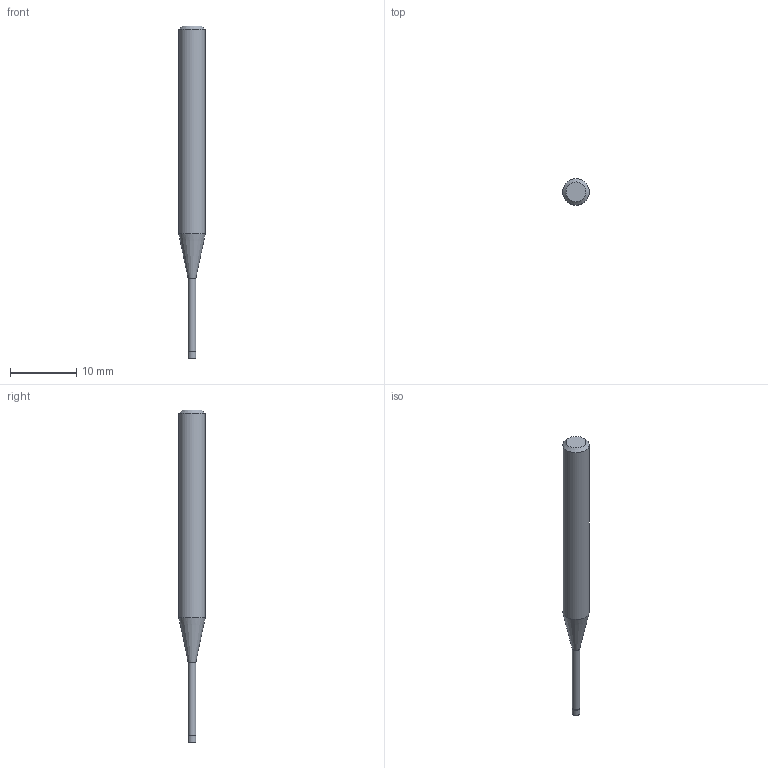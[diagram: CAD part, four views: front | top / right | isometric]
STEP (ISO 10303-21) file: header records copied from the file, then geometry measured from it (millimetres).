
FILE_DESCRIPTION((''),'2;1');
FILE_NAME('C:\Users\nsx150\AppData\Local\Temp\Mastercam 2021\3SYKECWX22\TEMP.step','2021-04-22T09:38:57',(''),(''),'STEP Write','Mastercam 2021 ... CNC Software, Inc.','');
FILE_SCHEMA(('AUTOMOTIVE_DESIGN'));
Length unit declared in the file: millimetre
Products named in the file (1): None
Bounding box: 4 x 4 x 50 mm (x, y, z)
Volume: 442.9 mm3; surface area: 504.1 mm2
Topology: 2 solids, 2 shells, 9 faces, 12 edges, 7 vertices
Faces by surface type: plane 4, cylinder 3, cone 2
Full cylindrical faces by diameter (mm): 1.15 x1, 1.2 x1, 4 x1
Entity records: 211 total; most frequent: DIRECTION 36, CARTESIAN_POINT 25, AXIS2_PLACEMENT_3D 18, ORIENTED_EDGE 14, EDGE_LOOP 14, STYLED_ITEM 12, ADVANCED_FACE 9, FACE_BOUND 8
